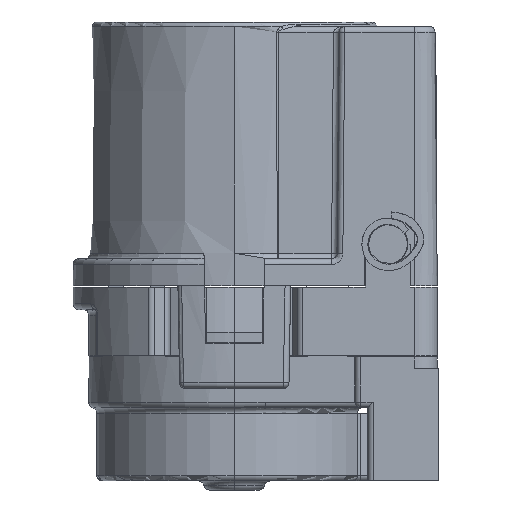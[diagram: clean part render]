
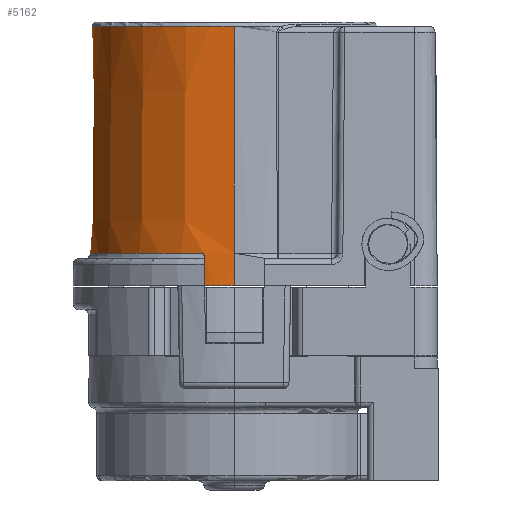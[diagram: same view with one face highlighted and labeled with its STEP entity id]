
A CAD part, left-side view. The second image highlights one B-rep face of the part: STEP entity #5162.
In plain terms, the highlighted conical face has half-angle 0.5 degrees and reference radius 12.8 mm.
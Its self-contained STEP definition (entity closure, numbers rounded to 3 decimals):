
#293 = DIRECTION ( 'NONE',  ( 0., 0., -1. ) ) ;
#302 = CIRCLE ( 'NONE', #13779, 12.599 ) ;
#375 = VERTEX_POINT ( 'NONE', #10440 ) ;
#445 = CARTESIAN_POINT ( 'NONE',  ( 0., 0., 17.3 ) ) ;
#661 = EDGE_CURVE ( 'NONE', #3714, #8174, #8321, .T. ) ;
#769 = CARTESIAN_POINT ( 'NONE',  ( 0., 0., 40.303 ) ) ;
#1251 = VERTEX_POINT ( 'NONE', #3728 ) ;
#1414 = DIRECTION ( 'NONE',  ( 0., 0., -1. ) ) ;
#1524 = CARTESIAN_POINT ( 'NONE',  ( 0., 0., 17.3 ) ) ;
#1538 =( BOUNDED_CURVE ( )  B_SPLINE_CURVE ( 3, ( #5931, #5957, #5898, #5896 ),
 .UNSPECIFIED., .F., .F. ) 
 B_SPLINE_CURVE_WITH_KNOTS ( ( 4, 4 ),
 ( 4.014, 4.018 ),
 .UNSPECIFIED. ) 
 CURVE ( )  GEOMETRIC_REPRESENTATION_ITEM ( )  RATIONAL_B_SPLINE_CURVE ( ( 1., 1., 1., 1. ) ) 
 REPRESENTATION_ITEM ( '' )  );
#1540 = DIRECTION ( 'NONE',  ( -1., 0., 0. ) ) ;
#1599 = AXIS2_PLACEMENT_3D ( 'NONE', #445, #293, #6448 ) ;
#1659 = LINE ( 'NONE', #11072, #13652 ) ;
#1788 = CARTESIAN_POINT ( 'NONE',  ( -12.599, 0., 40.303 ) ) ;
#1790 = VERTEX_POINT ( 'NONE', #6979 ) ;
#1873 = DIRECTION ( 'NONE',  ( 0., 0., -1. ) ) ;
#2329 = DIRECTION ( 'NONE',  ( -0.009, 0., 1. ) ) ;
#2387 = CARTESIAN_POINT ( 'NONE',  ( 12.8, 0., 17.3 ) ) ;
#2399 = EDGE_CURVE ( 'NONE', #10169, #1790, #302, .T. ) ;
#3714 = VERTEX_POINT ( 'NONE', #13538 ) ;
#3728 = CARTESIAN_POINT ( 'NONE',  ( -12.775, 0., 20.196 ) ) ;
#3836 = AXIS2_PLACEMENT_3D ( 'NONE', #7428, #7423, #7381 ) ;
#4136 = CARTESIAN_POINT ( 'NONE',  ( 12.775, 0., 20.196 ) ) ;
#4248 = ORIENTED_EDGE ( 'NONE', *, *, #4453, .T. ) ;
#4438 = EDGE_CURVE ( 'NONE', #8174, #4605, #11230, .T. ) ;
#4453 = EDGE_CURVE ( 'NONE', #6464, #6858, #13658, .T. ) ;
#4605 = VERTEX_POINT ( 'NONE', #5795 ) ;
#4831 = CARTESIAN_POINT ( 'NONE',  ( -12.525, 2.639, 17.3 ) ) ;
#5060 = EDGE_CURVE ( 'NONE', #375, #6858, #13341, .T. ) ;
#5123 = ORIENTED_EDGE ( 'NONE', *, *, #13510, .F. ) ;
#5162 = ADVANCED_FACE ( 'NONE', ( #9464 ), #9104, .T. ) ;
#5194 = LINE ( 'NONE', #9961, #10742 ) ;
#5345 = ORIENTED_EDGE ( 'NONE', *, *, #10884, .T. ) ;
#5795 = CARTESIAN_POINT ( 'NONE',  ( -12.488, 2.69, 20.196 ) ) ;
#5890 = EDGE_CURVE ( 'NONE', #10169, #1251, #1659, .T. ) ;
#5896 = CARTESIAN_POINT ( 'NONE',  ( -12.525, 2.639, 17.3 ) ) ;
#5898 = CARTESIAN_POINT ( 'NONE',  ( -12.513, 2.656, 18.267 ) ) ;
#5931 = CARTESIAN_POINT ( 'NONE',  ( -12.488, 2.69, 20.196 ) ) ;
#5957 = CARTESIAN_POINT ( 'NONE',  ( -12.501, 2.673, 19.232 ) ) ;
#6078 = ORIENTED_EDGE ( 'NONE', *, *, #4438, .T. ) ;
#6423 = VERTEX_POINT ( 'NONE', #7327 ) ;
#6443 = DIRECTION ( 'NONE',  ( -1., 0., 0. ) ) ;
#6445 = DIRECTION ( 'NONE',  ( 0., 0., -1. ) ) ;
#6448 = DIRECTION ( 'NONE',  ( -1., 0., 0. ) ) ;
#6464 = VERTEX_POINT ( 'NONE', #7210 ) ;
#6473 = CARTESIAN_POINT ( 'NONE',  ( 0., 0., 17.3 ) ) ;
#6517 = EDGE_CURVE ( 'NONE', #6423, #12522, #10492, .T. ) ;
#6575 = EDGE_CURVE ( 'NONE', #4605, #12522, #1538, .T. ) ;
#6655 = CIRCLE ( 'NONE', #7594, 12.599 ) ;
#6858 = VERTEX_POINT ( 'NONE', #4136 ) ;
#6979 = CARTESIAN_POINT ( 'NONE',  ( 0., 12.599, 40.303 ) ) ;
#7210 = CARTESIAN_POINT ( 'NONE',  ( 12.599, 0., 40.303 ) ) ;
#7248 = VECTOR ( 'NONE', #2329, 1000. ) ;
#7273 = ORIENTED_EDGE ( 'NONE', *, *, #5060, .F. ) ;
#7284 = DIRECTION ( 'NONE',  ( 0.009, 0., -1. ) ) ;
#7301 = CARTESIAN_POINT ( 'NONE',  ( 12.8, 0., 17.3 ) ) ;
#7327 = CARTESIAN_POINT ( 'NONE',  ( -12.8, 0., 17.3 ) ) ;
#7381 = DIRECTION ( 'NONE',  ( 0., 1., 0. ) ) ;
#7423 = DIRECTION ( 'NONE',  ( 0., 0., 1. ) ) ;
#7428 = CARTESIAN_POINT ( 'NONE',  ( 0., 0., 20.196 ) ) ;
#7594 = AXIS2_PLACEMENT_3D ( 'NONE', #769, #1414, #9176 ) ;
#7623 = ORIENTED_EDGE ( 'NONE', *, *, #8643, .T. ) ;
#7750 = ORIENTED_EDGE ( 'NONE', *, *, #661, .T. ) ;
#7945 = VECTOR ( 'NONE', #7284, 1000. ) ;
#8174 = VERTEX_POINT ( 'NONE', #10898 ) ;
#8196 = AXIS2_PLACEMENT_3D ( 'NONE', #1524, #1873, #1540 ) ;
#8289 = CARTESIAN_POINT ( 'NONE',  ( 12.488, 2.69, 20.196 ) ) ;
#8316 = CARTESIAN_POINT ( 'NONE',  ( 12.525, 2.639, 17.3 ) ) ;
#8321 =( BOUNDED_CURVE ( )  B_SPLINE_CURVE ( 3, ( #8316, #8337, #8411, #8289 ),
 .UNSPECIFIED., .F., .F. ) 
 B_SPLINE_CURVE_WITH_KNOTS ( ( 4, 4 ),
 ( 2.265, 2.269 ),
 .UNSPECIFIED. ) 
 CURVE ( )  GEOMETRIC_REPRESENTATION_ITEM ( )  RATIONAL_B_SPLINE_CURVE ( ( 1., 1., 1., 1. ) ) 
 REPRESENTATION_ITEM ( '' )  );
#8337 = CARTESIAN_POINT ( 'NONE',  ( 12.513, 2.656, 18.267 ) ) ;
#8411 = CARTESIAN_POINT ( 'NONE',  ( 12.501, 2.673, 19.232 ) ) ;
#8643 = EDGE_CURVE ( 'NONE', #1790, #6464, #6655, .T. ) ;
#9104 = CONICAL_SURFACE ( 'NONE', #8196, 12.8, 0.009 ) ;
#9176 = DIRECTION ( 'NONE',  ( 0., 1., 0. ) ) ;
#9464 = FACE_OUTER_BOUND ( 'NONE', #12169, .T. ) ;
#9687 = ORIENTED_EDGE ( 'NONE', *, *, #6575, .T. ) ;
#9961 = CARTESIAN_POINT ( 'NONE',  ( -12.8, 0., 17.3 ) ) ;
#10107 = AXIS2_PLACEMENT_3D ( 'NONE', #6473, #6445, #6443 ) ;
#10169 = VERTEX_POINT ( 'NONE', #1788 ) ;
#10172 = CIRCLE ( 'NONE', #1599, 12.8 ) ;
#10184 = DIRECTION ( 'NONE',  ( 0.009, 0., 1. ) ) ;
#10440 = CARTESIAN_POINT ( 'NONE',  ( 12.8, 0., 17.3 ) ) ;
#10492 = CIRCLE ( 'NONE', #10107, 12.8 ) ;
#10742 = VECTOR ( 'NONE', #10184, 1000. ) ;
#10884 = EDGE_CURVE ( 'NONE', #6423, #1251, #5194, .T. ) ;
#10898 = CARTESIAN_POINT ( 'NONE',  ( 12.488, 2.69, 20.196 ) ) ;
#11072 = CARTESIAN_POINT ( 'NONE',  ( -12.8, 0., 17.3 ) ) ;
#11226 = DIRECTION ( 'NONE',  ( -0.009, 0., -1. ) ) ;
#11230 = CIRCLE ( 'NONE', #3836, 12.775 ) ;
#11511 = ORIENTED_EDGE ( 'NONE', *, *, #6517, .F. ) ;
#12169 = EDGE_LOOP ( 'NONE', ( #12387, #7623, #4248, #7273, #5123, #7750, #6078, #9687, #11511, #5345, #13127 ) ) ;
#12381 = DIRECTION ( 'NONE',  ( 0., 1., 0. ) ) ;
#12387 = ORIENTED_EDGE ( 'NONE', *, *, #2399, .T. ) ;
#12391 = DIRECTION ( 'NONE',  ( 0., 0., -1. ) ) ;
#12411 = CARTESIAN_POINT ( 'NONE',  ( 0., 0., 40.303 ) ) ;
#12522 = VERTEX_POINT ( 'NONE', #4831 ) ;
#13127 = ORIENTED_EDGE ( 'NONE', *, *, #5890, .F. ) ;
#13341 = LINE ( 'NONE', #2387, #7248 ) ;
#13510 = EDGE_CURVE ( 'NONE', #3714, #375, #10172, .T. ) ;
#13538 = CARTESIAN_POINT ( 'NONE',  ( 12.525, 2.639, 17.3 ) ) ;
#13652 = VECTOR ( 'NONE', #11226, 1000. ) ;
#13658 = LINE ( 'NONE', #7301, #7945 ) ;
#13779 = AXIS2_PLACEMENT_3D ( 'NONE', #12411, #12391, #12381 ) ;
